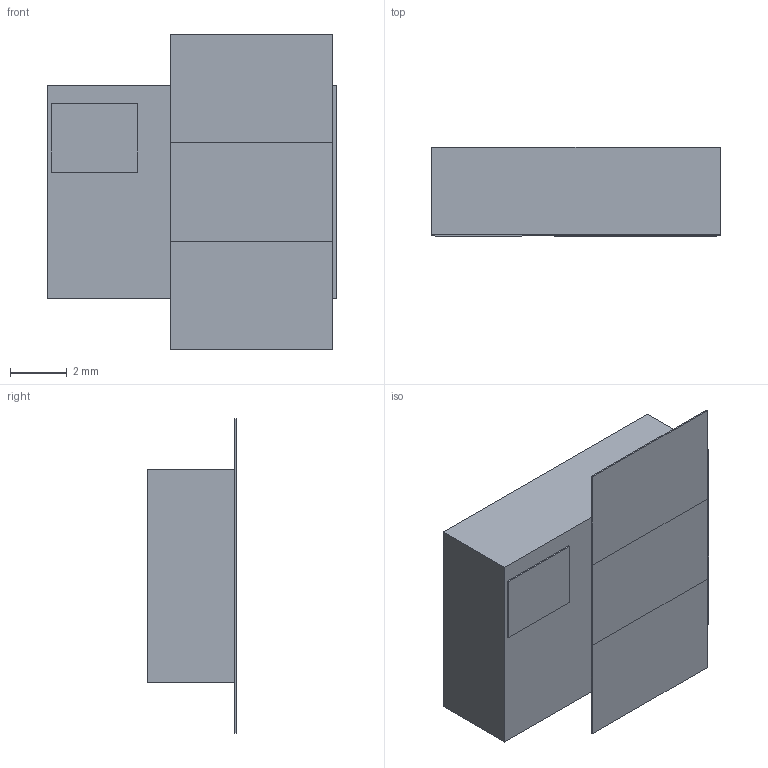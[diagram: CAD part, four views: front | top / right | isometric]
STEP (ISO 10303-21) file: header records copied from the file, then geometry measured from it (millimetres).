
FILE_DESCRIPTION (( 'STEP AP214' ), '1' );
FILE_NAME ( 'DIODFN1016X752X312-3.STEP', '2014-04-11T12:31:19', ( '' ), ( '' ), 'FPX Expert 2013', 'PCB Libraries', '' );
FILE_SCHEMA (( 'AUTOMOTIVE_DESIGN' ));
Length unit declared in the file: millimetre
Products named in the file (1): DIODFN1016X752X312-3
Bounding box: 10.16 x 3.12 x 11.07 mm (x, y, z)
Volume: 239.1 mm3; surface area: 445.3 mm2
Topology: 4 solids, 4 shells, 24 faces, 48 edges, 32 vertices
Faces by surface type: plane 24
Entity records: 740 total; most frequent: CARTESIAN_POINT 105, DIRECTION 98, ORIENTED_EDGE 96, VECTOR 48, LINE 48, EDGE_CURVE 48, VERTEX_POINT 32, STYLED_ITEM 29
